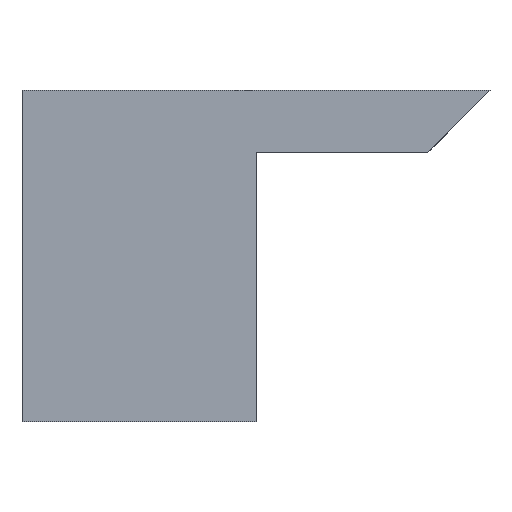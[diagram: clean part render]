
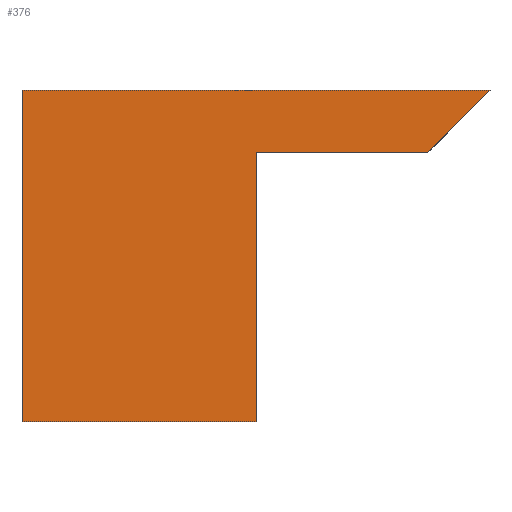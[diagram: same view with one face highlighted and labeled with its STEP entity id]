
A CAD part, front view. The second image highlights one B-rep face of the part: STEP entity #376.
In plain terms, the highlighted planar face has unit normal (0, -1, 0).
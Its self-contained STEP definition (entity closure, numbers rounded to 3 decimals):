
#50=FACE_OUTER_BOUND('',#70,.T.);
#70=EDGE_LOOP('',(#281,#282,#283,#284,#285,#286));
#105=LINE('',#588,#135);
#113=LINE('',#626,#143);
#114=LINE('',#628,#144);
#115=LINE('',#630,#145);
#116=LINE('',#632,#146);
#117=LINE('',#633,#147);
#135=VECTOR('',#466,10.);
#143=VECTOR('',#504,10.);
#144=VECTOR('',#505,10.);
#145=VECTOR('',#506,10.);
#146=VECTOR('',#507,10.);
#147=VECTOR('',#508,10.);
#165=VERTEX_POINT('',#585);
#166=VERTEX_POINT('',#587);
#181=VERTEX_POINT('',#625);
#182=VERTEX_POINT('',#627);
#183=VERTEX_POINT('',#629);
#184=VERTEX_POINT('',#631);
#201=EDGE_CURVE('',#165,#166,#105,.T.);
#221=EDGE_CURVE('',#181,#165,#113,.T.);
#222=EDGE_CURVE('',#182,#181,#114,.T.);
#223=EDGE_CURVE('',#182,#183,#115,.T.);
#224=EDGE_CURVE('',#183,#184,#116,.T.);
#225=EDGE_CURVE('',#184,#166,#117,.T.);
#281=ORIENTED_EDGE('',*,*,#201,.F.);
#282=ORIENTED_EDGE('',*,*,#221,.F.);
#283=ORIENTED_EDGE('',*,*,#222,.F.);
#284=ORIENTED_EDGE('',*,*,#223,.T.);
#285=ORIENTED_EDGE('',*,*,#224,.T.);
#286=ORIENTED_EDGE('',*,*,#225,.T.);
#362=PLANE('',#431);
#376=ADVANCED_FACE('',(#50),#362,.T.);
#431=AXIS2_PLACEMENT_3D('',#624,#502,#503);
#466=DIRECTION('',(-0.707,0.,-0.707));
#502=DIRECTION('center_axis',(0.,-1.,0.));
#503=DIRECTION('ref_axis',(1.,0.,0.));
#504=DIRECTION('',(1.,0.,0.));
#505=DIRECTION('',(0.,0.,1.));
#506=DIRECTION('',(1.,0.,0.));
#507=DIRECTION('',(0.,0.,1.));
#508=DIRECTION('',(1.,0.,0.));
#585=CARTESIAN_POINT('',(51.,0.,12.5));
#587=CARTESIAN_POINT('',(49.4,0.,10.9));
#588=CARTESIAN_POINT('',(45.475,0.,6.975));
#624=CARTESIAN_POINT('Origin',(39.,0.,4.));
#625=CARTESIAN_POINT('',(39.,0.,12.5));
#626=CARTESIAN_POINT('',(39.,0.,12.5));
#627=CARTESIAN_POINT('',(39.,0.,4.));
#628=CARTESIAN_POINT('',(39.,0.,4.));
#629=CARTESIAN_POINT('',(45.,0.,4.));
#630=CARTESIAN_POINT('',(39.,0.,4.));
#631=CARTESIAN_POINT('',(45.,0.,10.9));
#632=CARTESIAN_POINT('',(45.,0.,4.));
#633=CARTESIAN_POINT('',(39.,0.,10.9));
